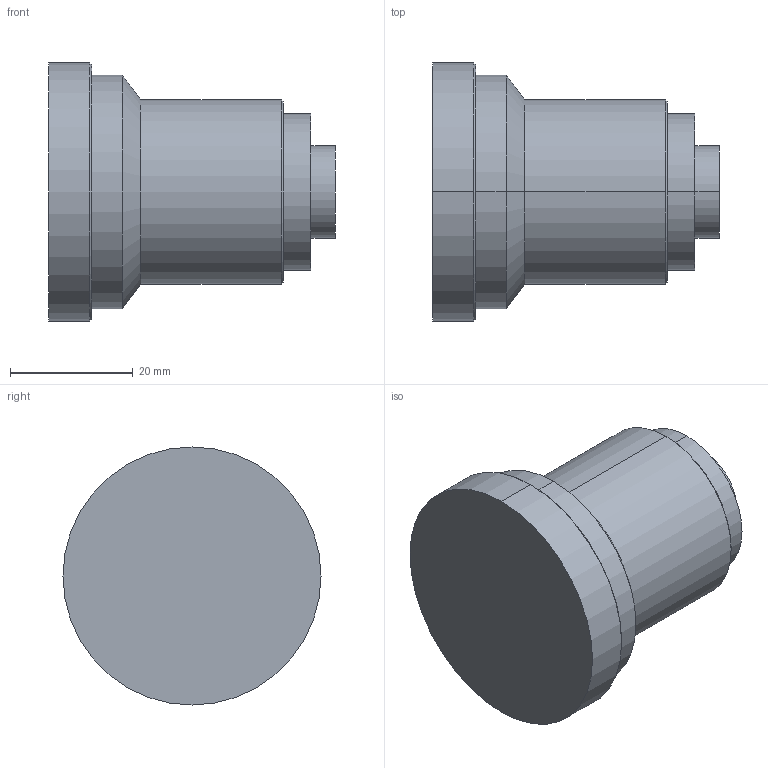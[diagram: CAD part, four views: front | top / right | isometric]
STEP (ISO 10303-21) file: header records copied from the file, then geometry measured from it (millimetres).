
FILE_DESCRIPTION(/* description */ ('VariCAD 2008 3.04 AP-203'),/* implementation_level */ '2;1');
FILE_NAME(/* name */ '0353-70-42',/* time_stamp */ '2009-04-25T12:29:45-06:00',/* author */ (''),/* organization */ (''),/* preprocessor_version */ 'ST-DEVELOPER v12',/* originating_system */ 'VariCAD 2008 3.04; kernel version (20080715)',/* authorisation */ '');
FILE_SCHEMA (('CONFIG_CONTROL_DESIGN'));
Length unit declared in the file: millimetre
Products named in the file (1): Part
Bounding box: 46.7 x 42 x 42 mm (x, y, z)
Volume: 37481 mm3; surface area: 7092.4 mm2
Topology: 1 solids, 1 shells, 21 faces, 40 edges, 24 vertices
Faces by surface type: cylinder 10, cone 6, plane 5
Entity records: 580 total; most frequent: DIRECTION 110, CARTESIAN_POINT 87, ORIENTED_EDGE 80, AXIS2_PLACEMENT_3D 47, EDGE_CURVE 40, EDGE_LOOP 24, CIRCLE 24, VERTEX_POINT 24
